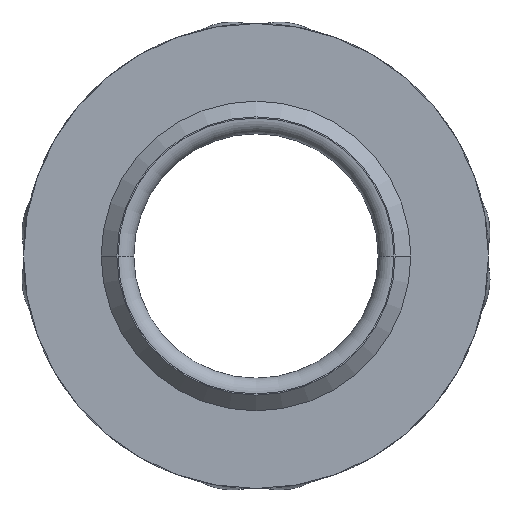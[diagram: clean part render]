
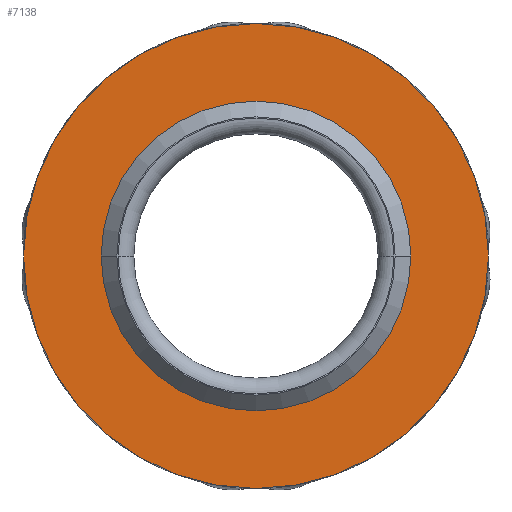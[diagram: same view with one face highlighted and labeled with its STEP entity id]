
A CAD part, front view. The second image highlights one B-rep face of the part: STEP entity #7138.
In plain terms, the highlighted planar face has unit normal (0, -1, 0).
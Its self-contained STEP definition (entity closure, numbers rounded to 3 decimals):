
#63 = VERTEX_POINT ( 'NONE', #289 ) ;
#289 = CARTESIAN_POINT ( 'NONE',  ( 3873.35, 1628.19, 0. ) ) ;
#316 = FACE_BOUND ( 'NONE', #2300, .T. ) ;
#442 = CARTESIAN_POINT ( 'NONE',  ( 3902.85, 1628.19, 0. ) ) ;
#987 = CARTESIAN_POINT ( 'NONE',  ( 3888.1, 1628.19, 0. ) ) ;
#1612 = ORIENTED_EDGE ( 'NONE', *, *, #2542, .T. ) ;
#1732 = ORIENTED_EDGE ( 'NONE', *, *, #4420, .F. ) ;
#1873 = VERTEX_POINT ( 'NONE', #3031 ) ;
#2185 = VERTEX_POINT ( 'NONE', #6088 ) ;
#2300 = EDGE_LOOP ( 'NONE', ( #1732, #8804 ) ) ;
#2542 = EDGE_CURVE ( 'NONE', #3347, #63, #4558, .T. ) ;
#2656 = CARTESIAN_POINT ( 'NONE',  ( 0., 1628.19, 0. ) ) ;
#2716 = AXIS2_PLACEMENT_3D ( 'NONE', #2656, #4043, #6750 ) ;
#3031 = CARTESIAN_POINT ( 'NONE',  ( 3878.7, 1628.19, 0. ) ) ;
#3167 = CARTESIAN_POINT ( 'NONE',  ( 3888.1, 1628.19, 0. ) ) ;
#3196 = DIRECTION ( 'NONE',  ( 0., -1., 0. ) ) ;
#3334 = AXIS2_PLACEMENT_3D ( 'NONE', #3167, #3196, #3880 ) ;
#3347 = VERTEX_POINT ( 'NONE', #442 ) ;
#3399 = EDGE_LOOP ( 'NONE', ( #1612, #8488 ) ) ;
#3543 = AXIS2_PLACEMENT_3D ( 'NONE', #5483, #6105, #4797 ) ;
#3880 = DIRECTION ( 'NONE',  ( 1., 0., 0. ) ) ;
#4043 = DIRECTION ( 'NONE',  ( 0., -1., 0. ) ) ;
#4297 = FACE_OUTER_BOUND ( 'NONE', #3399, .T. ) ;
#4314 = DIRECTION ( 'NONE',  ( 0., -1., 0. ) ) ;
#4420 = EDGE_CURVE ( 'NONE', #2185, #1873, #8534, .T. ) ;
#4558 = CIRCLE ( 'NONE', #3334, 14.75 ) ;
#4560 = DIRECTION ( 'NONE',  ( 0., -1., 0. ) ) ;
#4797 = DIRECTION ( 'NONE',  ( 1., 0., 0. ) ) ;
#5065 = CARTESIAN_POINT ( 'NONE',  ( 3888.1, 1628.19, 0. ) ) ;
#5483 = CARTESIAN_POINT ( 'NONE',  ( 3888.1, 1628.19, 0. ) ) ;
#5743 = DIRECTION ( 'NONE',  ( 1., 0., 0. ) ) ;
#6073 = AXIS2_PLACEMENT_3D ( 'NONE', #5065, #4314, #5743 ) ;
#6086 = PLANE ( 'NONE',  #2716 ) ;
#6088 = CARTESIAN_POINT ( 'NONE',  ( 3897.5, 1628.19, 0. ) ) ;
#6105 = DIRECTION ( 'NONE',  ( 0., -1., 0. ) ) ;
#6288 = EDGE_CURVE ( 'NONE', #63, #3347, #6812, .T. ) ;
#6560 = EDGE_CURVE ( 'NONE', #1873, #2185, #6916, .T. ) ;
#6750 = DIRECTION ( 'NONE',  ( 1., 0., 0. ) ) ;
#6812 = CIRCLE ( 'NONE', #9060, 14.75 ) ;
#6916 = CIRCLE ( 'NONE', #3543, 9.4 ) ;
#7138 = ADVANCED_FACE ( 'NONE', ( #4297, #316 ), #6086, .T. ) ;
#8488 = ORIENTED_EDGE ( 'NONE', *, *, #6288, .T. ) ;
#8534 = CIRCLE ( 'NONE', #6073, 9.4 ) ;
#8644 = DIRECTION ( 'NONE',  ( 1., 0., 0. ) ) ;
#8804 = ORIENTED_EDGE ( 'NONE', *, *, #6560, .F. ) ;
#9060 = AXIS2_PLACEMENT_3D ( 'NONE', #987, #4560, #8644 ) ;
